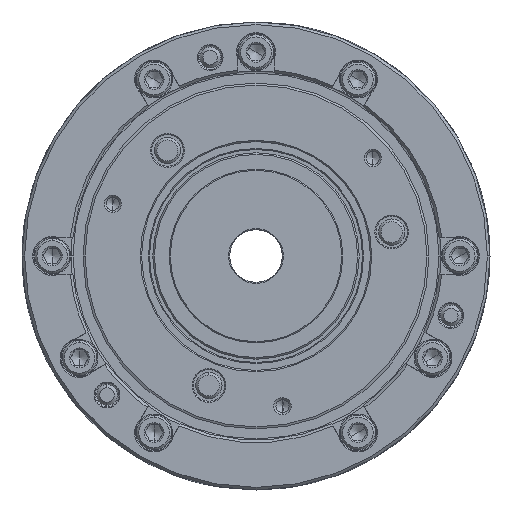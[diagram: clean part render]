
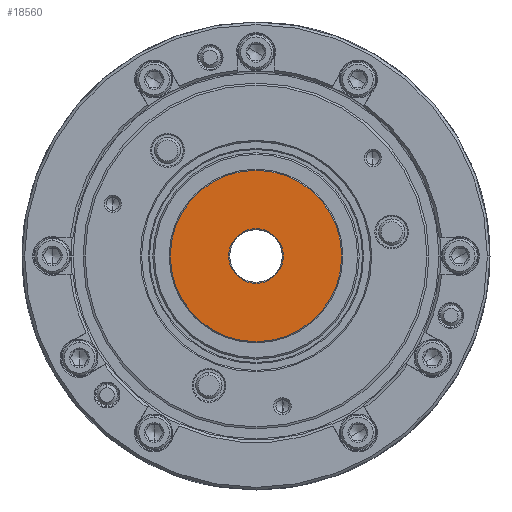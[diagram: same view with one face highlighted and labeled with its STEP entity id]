
A CAD part, left-side view. The second image highlights one B-rep face of the part: STEP entity #18560.
In plain terms, the highlighted planar face has unit normal (-1, 0, 0).
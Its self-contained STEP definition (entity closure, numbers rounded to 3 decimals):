
#654 = DIRECTION ( 'NONE',  ( -1., 0., 0. ) ) ;
#1797 = CARTESIAN_POINT ( 'NONE',  ( -28.5, 0., 10.4 ) ) ;
#2252 = ORIENTED_EDGE ( 'NONE', *, *, #8062, .F. ) ;
#2427 = ORIENTED_EDGE ( 'NONE', *, *, #33314, .F. ) ;
#2993 = FACE_OUTER_BOUND ( 'NONE', #24991, .T. ) ;
#4060 = EDGE_CURVE ( 'NONE', #36318, #10358, #20578, .T. ) ;
#4796 = CIRCLE ( 'NONE', #5402, 10.4 ) ;
#5402 = AXIS2_PLACEMENT_3D ( 'NONE', #16261, #22307, #31486 ) ;
#8062 = EDGE_CURVE ( 'NONE', #28516, #35277, #28828, .T. ) ;
#9426 = CARTESIAN_POINT ( 'NONE',  ( -28.5, -32.6, 0. ) ) ;
#9776 = CARTESIAN_POINT ( 'NONE',  ( -28.5, 0., 0. ) ) ;
#9809 = DIRECTION ( 'NONE',  ( 0., 0., 1. ) ) ;
#10180 = AXIS2_PLACEMENT_3D ( 'NONE', #22116, #27978, #9809 ) ;
#10358 = VERTEX_POINT ( 'NONE', #12575 ) ;
#11926 = EDGE_CURVE ( 'NONE', #10358, #36318, #27035, .T. ) ;
#12575 = CARTESIAN_POINT ( 'NONE',  ( -28.5, 0., -32.6 ) ) ;
#13861 = DIRECTION ( 'NONE',  ( 0., 0., 1. ) ) ;
#14829 = CARTESIAN_POINT ( 'NONE',  ( -28.5, 0., 32.6 ) ) ;
#15119 = EDGE_LOOP ( 'NONE', ( #2252, #2427 ) ) ;
#15442 = DIRECTION ( 'NONE',  ( 0., 0., 1. ) ) ;
#15813 = CARTESIAN_POINT ( 'NONE',  ( -28.5, 0., -10.4 ) ) ;
#16261 = CARTESIAN_POINT ( 'NONE',  ( -28.5, 0., 0. ) ) ;
#17563 = DIRECTION ( 'NONE',  ( -1., 0., 0. ) ) ;
#17832 = PLANE ( 'NONE',  #35469 ) ;
#18433 = FACE_BOUND ( 'NONE', #15119, .T. ) ;
#18560 = ADVANCED_FACE ( 'NONE', ( #2993, #18433 ), #17832, .T. ) ;
#20578 = CIRCLE ( 'NONE', #21826, 32.6 ) ;
#20739 = AXIS2_PLACEMENT_3D ( 'NONE', #9776, #24642, #15442 ) ;
#21826 = AXIS2_PLACEMENT_3D ( 'NONE', #23238, #17563, #13861 ) ;
#22116 = CARTESIAN_POINT ( 'NONE',  ( -28.5, 0., 0. ) ) ;
#22307 = DIRECTION ( 'NONE',  ( -1., 0., 0. ) ) ;
#23238 = CARTESIAN_POINT ( 'NONE',  ( -28.5, 0., 0. ) ) ;
#23888 = ORIENTED_EDGE ( 'NONE', *, *, #11926, .T. ) ;
#24642 = DIRECTION ( 'NONE',  ( -1., 0., 0. ) ) ;
#24991 = EDGE_LOOP ( 'NONE', ( #23888, #34002 ) ) ;
#26834 = DIRECTION ( 'NONE',  ( 0., 0., 1. ) ) ;
#27035 = CIRCLE ( 'NONE', #10180, 32.6 ) ;
#27978 = DIRECTION ( 'NONE',  ( -1., 0., 0. ) ) ;
#28516 = VERTEX_POINT ( 'NONE', #1797 ) ;
#28828 = CIRCLE ( 'NONE', #20739, 10.4 ) ;
#31486 = DIRECTION ( 'NONE',  ( 0., 0., 1. ) ) ;
#33314 = EDGE_CURVE ( 'NONE', #35277, #28516, #4796, .T. ) ;
#34002 = ORIENTED_EDGE ( 'NONE', *, *, #4060, .T. ) ;
#35277 = VERTEX_POINT ( 'NONE', #15813 ) ;
#35469 = AXIS2_PLACEMENT_3D ( 'NONE', #9426, #654, #26834 ) ;
#36318 = VERTEX_POINT ( 'NONE', #14829 ) ;
